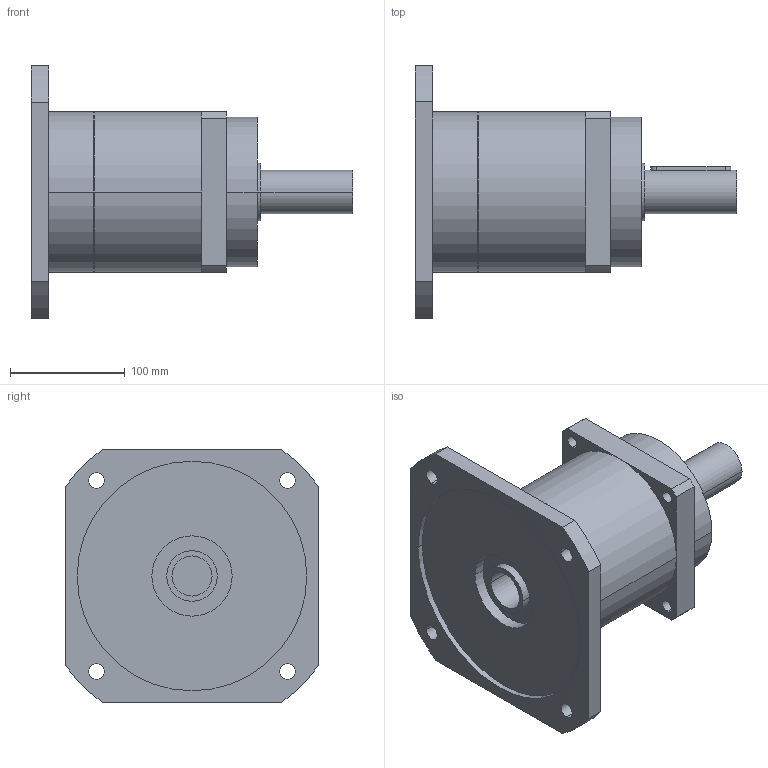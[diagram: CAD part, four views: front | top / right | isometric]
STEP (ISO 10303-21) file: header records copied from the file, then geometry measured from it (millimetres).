
FILE_DESCRIPTION(('CoCreate Modeling STEP Export'),'2;1');
FILE_NAME('GPR150_ig-3-4-5-7_38_B5_35_P12.stp','2014-08-19T16:43:18',(''),(''),'CoCreate Modeling STEP processor for AP214 (Solid Model)','CoCreate Modeling 16.00C 25-Feb-2009 (C) Parametric Technology GmbH','');
FILE_SCHEMA(('AUTOMOTIVE_DESIGN { 1 0 10303 214 1 1 1 1 }'));
Length unit declared in the file: millimetre
Products named in the file (2): GPR150_ig-3-4-5-7_38_B5_35_P12
Assembly tree (1 placements, depth 2):
  GPR150_ig-3-4-5-7_38_B5_35_P12
    GPR150_ig-3-4-5-7_38_B5_35_P12
Bounding box: 280 x 220 x 220 mm (x, y, z)
Volume: 3357782.9 mm3; surface area: 225093.1 mm2
Topology: 1 solids, 1 shells, 78 faces, 214 edges, 146 vertices
Faces by surface type: cylinder 46, plane 26, cone 6
Entity records: 2260 total; most frequent: ORIENTED_EDGE 424, CARTESIAN_POINT 421, DIRECTION 320, EDGE_CURVE 212, VERTEX_POINT 146, AXIS2_PLACEMENT_3D 117, EDGE_LOOP 104, VECTOR 86
